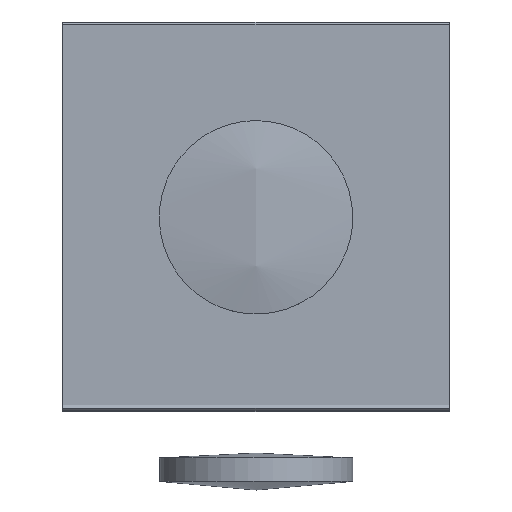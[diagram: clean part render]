
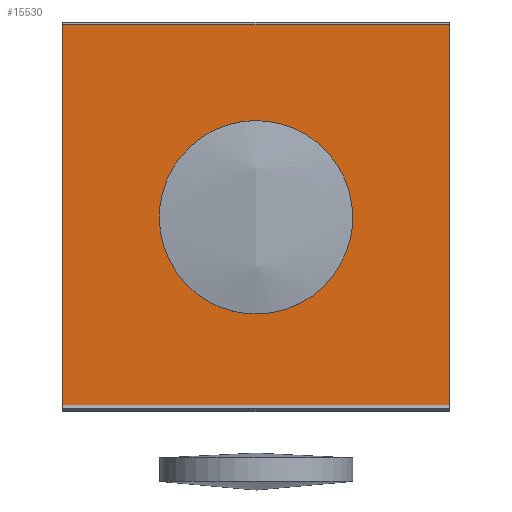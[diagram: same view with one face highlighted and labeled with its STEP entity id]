
A CAD part, top view. The second image highlights one B-rep face of the part: STEP entity #15530.
In plain terms, the highlighted planar face has unit normal (0, 0, 1).
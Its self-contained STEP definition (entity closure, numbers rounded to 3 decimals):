
#14130 = CARTESIAN_POINT ('', (50., -50., 228.032));
#14140 = VERTEX_POINT ('', #14130);
#14200 = CARTESIAN_POINT ('', (-50., -50., 228.032));
#14210 = VERTEX_POINT ('', #14200);
#14220 = CARTESIAN_POINT ('', (-50., -50., 228.032));
#14230 = CARTESIAN_POINT ('', (-16.667, -50., 228.032));
#14240 = CARTESIAN_POINT ('', (16.667, -50., 228.032));
#14250 = CARTESIAN_POINT ('', (50., -50., 228.032));
#14260 = B_SPLINE_CURVE_WITH_KNOTS ('', 3, (#14220, #14230, #14240, #14250), .UNSPECIFIED., .F., .U., (4, 4), (0., 100.), .UNSPECIFIED.);
#14270 = EDGE_CURVE ('', #14210, #14140, #14260, .T.);
#14510 = CARTESIAN_POINT ('', (50., 50., 228.032));
#14520 = VERTEX_POINT ('', #14510);
#14580 = CARTESIAN_POINT ('', (50., -50., 228.032));
#14590 = CARTESIAN_POINT ('', (50., -16.667, 228.032));
#14600 = CARTESIAN_POINT ('', (50., 16.667, 228.032));
#14610 = CARTESIAN_POINT ('', (50., 50., 228.032));
#14620 = B_SPLINE_CURVE_WITH_KNOTS ('', 3, (#14580, #14590, #14600, #14610), .UNSPECIFIED., .F., .U., (4, 4), (0., 100.), .UNSPECIFIED.);
#14630 = EDGE_CURVE ('', #14140, #14520, #14620, .T.);
#14830 = CARTESIAN_POINT ('', (-50., 50., 228.032));
#14840 = VERTEX_POINT ('', #14830);
#14900 = CARTESIAN_POINT ('', (50., 50., 228.032));
#14910 = CARTESIAN_POINT ('', (16.667, 50., 228.032));
#14920 = CARTESIAN_POINT ('', (-16.667, 50., 228.032));
#14930 = CARTESIAN_POINT ('', (-50., 50., 228.032));
#14940 = B_SPLINE_CURVE_WITH_KNOTS ('', 3, (#14900, #14910, #14920, #14930), .UNSPECIFIED., .F., .U., (4, 4), (0., 100.), .UNSPECIFIED.);
#14950 = EDGE_CURVE ('', #14520, #14840, #14940, .T.);
#15140 = CARTESIAN_POINT ('', (-50., 50., 228.032));
#15150 = CARTESIAN_POINT ('', (-50., 16.667, 228.032));
#15160 = CARTESIAN_POINT ('', (-50., -16.667, 228.032));
#15170 = CARTESIAN_POINT ('', (-50., -50., 228.032));
#15180 = B_SPLINE_CURVE_WITH_KNOTS ('', 3, (#15140, #15150, #15160, #15170), .UNSPECIFIED., .F., .U., (4, 4), (0., 100.), .UNSPECIFIED.);
#15190 = EDGE_CURVE ('', #14840, #14210, #15180, .T.);
#15420 = ORIENTED_EDGE ('', *, *, #14270, .T.);
#15430 = ORIENTED_EDGE ('', *, *, #14630, .T.);
#15440 = ORIENTED_EDGE ('', *, *, #14950, .T.);
#15450 = ORIENTED_EDGE ('', *, *, #15190, .T.);
#15460 = EDGE_LOOP ('', (#15420, #15430, #15440, #15450));
#15470 = FACE_OUTER_BOUND ('', #15460, .T.);
#15480 = CARTESIAN_POINT ('', (0., 102.204, 228.032));
#15490 = DIRECTION ('', (0., 0., 1.));
#15500 = DIRECTION ('', (-0.707, -0.707, 0.));
#15510 = AXIS2_PLACEMENT_3D ('', #15480, #15490, #15500);
#15520 = PLANE ('', #15510);
#15530 = ADVANCED_FACE ('', (#15470), #15520, .T.);
